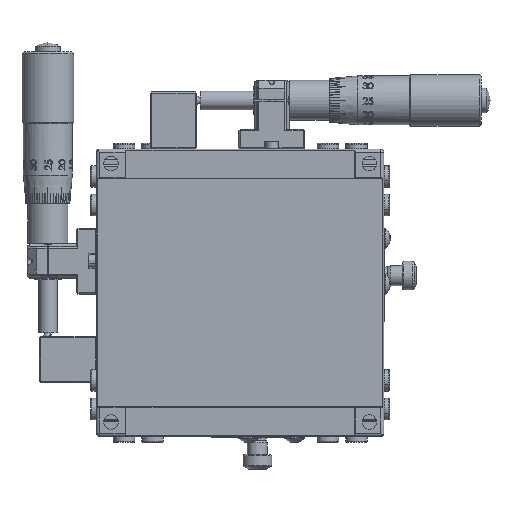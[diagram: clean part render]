
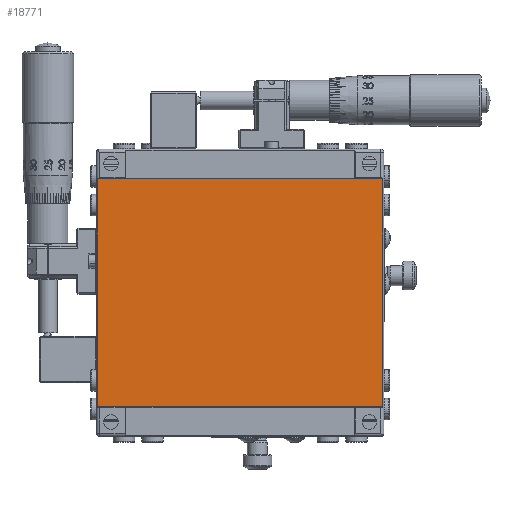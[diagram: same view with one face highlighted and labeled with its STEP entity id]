
A CAD part, front view. The second image highlights one B-rep face of the part: STEP entity #18771.
In plain terms, the highlighted planar face has unit normal (0, -1, 0).
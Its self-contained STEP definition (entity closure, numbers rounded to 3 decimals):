
#9877 = ORIENTED_EDGE ( 'NONE', *, *, #31809, .F. ) ;
#14580 = EDGE_LOOP ( 'NONE', ( #9877, #89870, #162338, #62288 ) ) ;
#17560 = CARTESIAN_POINT ( 'NONE',  ( -49.656, 10.537, -39.7 ) ) ;
#18771 = ADVANCED_FACE ( 'NONE', ( #107922 ), #114043, .F. ) ;
#23087 = EDGE_CURVE ( 'NONE', #30834, #175942, #80869, .T. ) ;
#24452 = VECTOR ( 'NONE', #178071, 1000. ) ;
#30834 = VERTEX_POINT ( 'NONE', #118044 ) ;
#31809 = EDGE_CURVE ( 'NONE', #62716, #59970, #169322, .T. ) ;
#46277 = CARTESIAN_POINT ( 'NONE',  ( -49.656, 10.537, 39.7 ) ) ;
#48240 = VECTOR ( 'NONE', #126551, 1000. ) ;
#48614 = DIRECTION ( 'NONE',  ( 0., 0., 1. ) ) ;
#59970 = VERTEX_POINT ( 'NONE', #17560 ) ;
#62288 = ORIENTED_EDGE ( 'NONE', *, *, #156041, .T. ) ;
#62716 = VERTEX_POINT ( 'NONE', #104346 ) ;
#80869 = LINE ( 'NONE', #197992, #202158 ) ;
#89870 = ORIENTED_EDGE ( 'NONE', *, *, #97012, .T. ) ;
#93431 = CARTESIAN_POINT ( 'NONE',  ( 50.059, 10.537, -39.7 ) ) ;
#97012 = EDGE_CURVE ( 'NONE', #62716, #30834, #150318, .T. ) ;
#104346 = CARTESIAN_POINT ( 'NONE',  ( 49.773, 10.537, -39.7 ) ) ;
#106398 = VECTOR ( 'NONE', #205508, 1000. ) ;
#107922 = FACE_OUTER_BOUND ( 'NONE', #14580, .T. ) ;
#114043 = PLANE ( 'NONE',  #164764 ) ;
#115767 = DIRECTION ( 'NONE',  ( -1., 0., 0. ) ) ;
#118044 = CARTESIAN_POINT ( 'NONE',  ( 49.773, 10.537, 39.7 ) ) ;
#126551 = DIRECTION ( 'NONE',  ( -1., 0., 0. ) ) ;
#147304 = DIRECTION ( 'NONE',  ( 0., 1., 0. ) ) ;
#150318 = LINE ( 'NONE', #188803, #106398 ) ;
#156041 = EDGE_CURVE ( 'NONE', #175942, #59970, #176579, .T. ) ;
#162338 = ORIENTED_EDGE ( 'NONE', *, *, #23087, .T. ) ;
#164764 = AXIS2_PLACEMENT_3D ( 'NONE', #179692, #147304, #48614 ) ;
#169322 = LINE ( 'NONE', #93431, #48240 ) ;
#174973 = CARTESIAN_POINT ( 'NONE',  ( -49.656, 10.537, 39.7 ) ) ;
#175942 = VERTEX_POINT ( 'NONE', #174973 ) ;
#176579 = LINE ( 'NONE', #46277, #24452 ) ;
#178071 = DIRECTION ( 'NONE',  ( 0., 0., -1. ) ) ;
#179692 = CARTESIAN_POINT ( 'NONE',  ( 50.059, 10.537, 39.7 ) ) ;
#188803 = CARTESIAN_POINT ( 'NONE',  ( 49.773, 10.537, -39.7 ) ) ;
#197992 = CARTESIAN_POINT ( 'NONE',  ( 50.059, 10.537, 39.7 ) ) ;
#202158 = VECTOR ( 'NONE', #115767, 1000. ) ;
#205508 = DIRECTION ( 'NONE',  ( 0., 0., 1. ) ) ;
